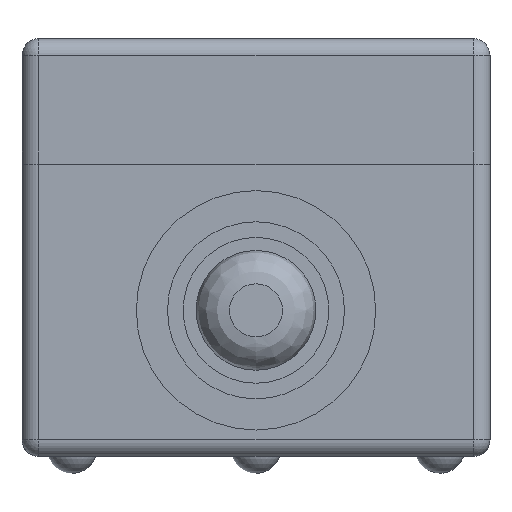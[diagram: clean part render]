
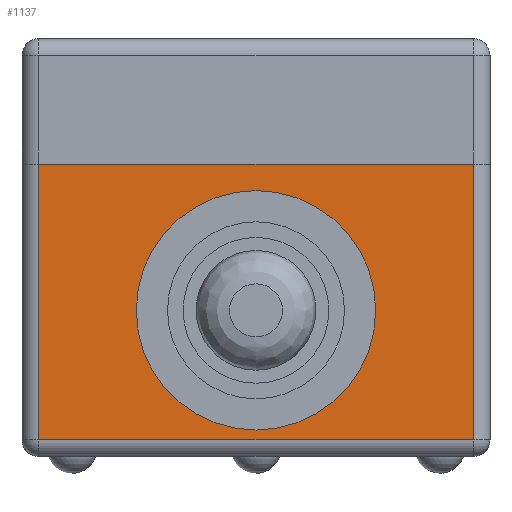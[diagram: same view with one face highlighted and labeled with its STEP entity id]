
A CAD part, front view. The second image highlights one B-rep face of the part: STEP entity #1137.
In plain terms, the highlighted planar face has unit normal (0, -1, 0).
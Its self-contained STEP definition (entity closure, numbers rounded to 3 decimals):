
#88=PLANE('',#1275);
#147=LINE('',#1877,#213);
#151=LINE('',#1886,#217);
#154=LINE('',#1893,#220);
#171=LINE('',#1946,#237);
#213=VECTOR('',#1514,10.);
#217=VECTOR('',#1524,10.);
#220=VECTOR('',#1531,10.);
#237=VECTOR('',#1588,10.);
#325=FACE_OUTER_BOUND('',#426,.T.);
#426=EDGE_LOOP('',(#990,#991,#992,#993));
#590=VERTEX_POINT('',#1849);
#598=VERTEX_POINT('',#1870);
#602=VERTEX_POINT('',#1884);
#603=VERTEX_POINT('',#1889);
#724=EDGE_CURVE('',#598,#590,#147,.T.);
#729=EDGE_CURVE('',#602,#598,#151,.T.);
#733=EDGE_CURVE('',#590,#603,#154,.T.);
#757=EDGE_CURVE('',#603,#602,#171,.T.);
#990=ORIENTED_EDGE('',*,*,#729,.F.);
#991=ORIENTED_EDGE('',*,*,#757,.F.);
#992=ORIENTED_EDGE('',*,*,#733,.F.);
#993=ORIENTED_EDGE('',*,*,#724,.F.);
#1137=ADVANCED_FACE('',(#325),#88,.T.);
#1275=AXIS2_PLACEMENT_3D('',#1945,#1586,#1587);
#1514=DIRECTION('',(-1.,0.,0.));
#1524=DIRECTION('',(0.,0.,-1.));
#1531=DIRECTION('',(0.,0.,1.));
#1586=DIRECTION('center_axis',(0.,-1.,0.));
#1587=DIRECTION('ref_axis',(0.,0.,-1.));
#1588=DIRECTION('',(1.,0.,0.));
#1849=CARTESIAN_POINT('',(1.,6.,1.));
#1870=CARTESIAN_POINT('',(27.,6.,1.));
#1877=CARTESIAN_POINT('',(0.,6.,1.));
#1884=CARTESIAN_POINT('',(27.,6.,17.5));
#1886=CARTESIAN_POINT('',(27.,6.,11.795));
#1889=CARTESIAN_POINT('',(1.,6.,17.5));
#1893=CARTESIAN_POINT('',(1.,6.,11.795));
#1945=CARTESIAN_POINT('Origin',(0.,6.,17.5));
#1946=CARTESIAN_POINT('',(0.,6.,17.5));
